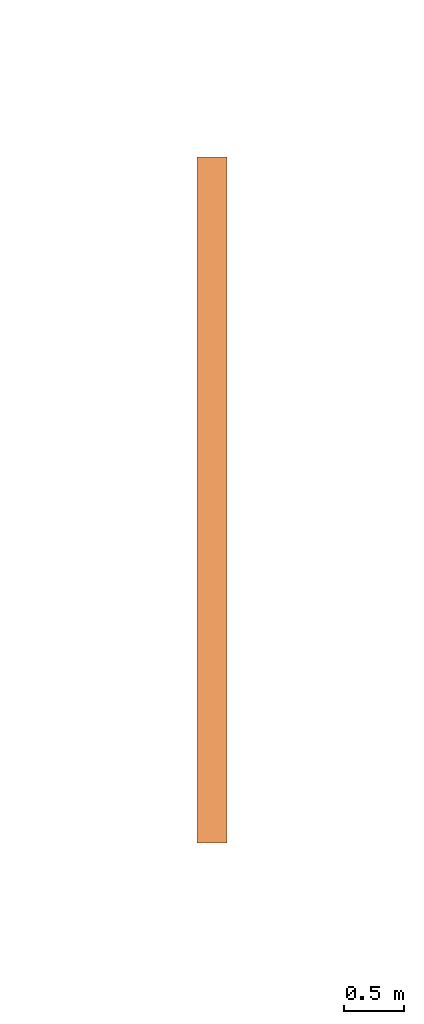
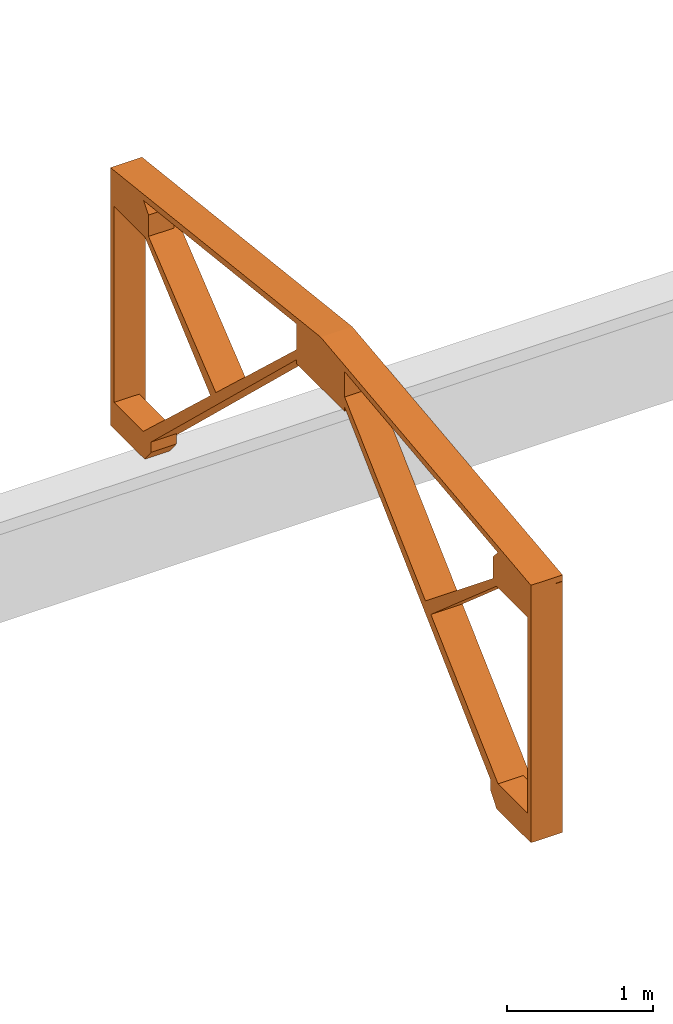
# One storey, part 5 of 6: 1 proxy.
"""IFC2X3 building model written with IfcOpenShell, lengths in millimetres."""

from ifc_helpers import new_model, entity, si_unit, converted_unit, derived_unit, direction, frame, origin, place, context, subcontext, project, spatial, faceted_brep, source, transform, mapped, material, type_object, type_shapes, element, save


model = new_model("IFC2X3")

# Units and contexts
model_context = context("Model", 3, precision=0.01, world=origin(), true_north=direction((6.12303176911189e-17, 1.0)))
body_context = subcontext(model_context, "Body", "Model", "MODEL_VIEW")
ifc_project = project(units=[si_unit("LENGTHUNIT", "METRE", prefix="MILLI"), si_unit("AREAUNIT", "SQUARE_METRE"), si_unit("VOLUMEUNIT", "CUBIC_METRE"), converted_unit("PLANEANGLEUNIT", "DEGREE", entity("IfcRatioMeasure", 0.0174532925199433), si_unit("PLANEANGLEUNIT", "RADIAN"), dimensions=[0, 0, 0, 0, 0, 0, 0]), si_unit("MASSUNIT", "GRAM", prefix="KILO"), derived_unit("MASSDENSITYUNIT", [(si_unit("MASSUNIT", "GRAM", prefix="KILO"), 1), (si_unit("LENGTHUNIT", "METRE"), -3)]), si_unit("TIMEUNIT", "SECOND"), si_unit("FREQUENCYUNIT", "HERTZ"), si_unit("THERMODYNAMICTEMPERATUREUNIT", "DEGREE_CELSIUS"), derived_unit("THERMALTRANSMITTANCEUNIT", [(si_unit("MASSUNIT", "GRAM", prefix="KILO"), 1), (si_unit("THERMODYNAMICTEMPERATUREUNIT", "KELVIN"), -1), (si_unit("TIMEUNIT", "SECOND"), -3)]), derived_unit("VOLUMETRICFLOWRATEUNIT", [(si_unit("LENGTHUNIT", "METRE"), 3), (si_unit("TIMEUNIT", "SECOND"), -1)]), si_unit("ELECTRICCURRENTUNIT", "AMPERE"), si_unit("ELECTRICVOLTAGEUNIT", "VOLT"), si_unit("POWERUNIT", "WATT"), si_unit("FORCEUNIT", "NEWTON", prefix="KILO"), si_unit("ILLUMINANCEUNIT", "LUX"), si_unit("LUMINOUSFLUXUNIT", "LUMEN"), si_unit("LUMINOUSINTENSITYUNIT", "CANDELA"), derived_unit("USERDEFINED", [(si_unit("MASSUNIT", "GRAM", prefix="KILO"), -1), (si_unit("LENGTHUNIT", "METRE"), -2), (si_unit("TIMEUNIT", "SECOND"), 3), (si_unit("LUMINOUSFLUXUNIT", "LUMEN"), 1)]), derived_unit("LINEARVELOCITYUNIT", [(si_unit("LENGTHUNIT", "METRE"), 1), (si_unit("TIMEUNIT", "SECOND"), -1)]), si_unit("PRESSUREUNIT", "PASCAL"), derived_unit("USERDEFINED", [(si_unit("LENGTHUNIT", "METRE"), -2), (si_unit("MASSUNIT", "GRAM", prefix="KILO"), 1), (si_unit("TIMEUNIT", "SECOND"), -2)])], contexts=[model_context])

# Site, building, storey
site_placement = place(None, origin())
site = spatial("IfcSite", under=ifc_project, at=site_placement, Name="表面", CompositionType="ELEMENT")
building_placement = place(site_placement, origin())
building = spatial("IfcBuilding", under=site, at=building_placement, CompositionType="ELEMENT")
storey_placement = place(building_placement, frame((0.0, 0.0, 3300.0)))
storey = spatial("IfcBuildingStorey", under=building, at=storey_placement, Name="3.3000", CompositionType="ELEMENT", Elevation=3300.0)

# Proxy
ifc_material = material(Name="钢材")
building_element_proxy_type = type_object("IfcBuildingElementProxyType", Name="最上层房顶钢架", PredefinedType="NOTDEFINED", material=ifc_material)
shared_shape = source(origin(), body_context, "Body", "Brep", [
    faceted_brep([(0.0, -250.0, 2430.07713782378), (2880.0, -250.0, 2101.40054995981), (2880.0, -250.0, 2153.09870565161), (0.0, -250.0, 2481.77529351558), (-2880.0, -250.0, 2153.09870565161), (-2880.0, -250.0, 2101.40054995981), (0.0, -200.0, 2430.07713782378), (327.886284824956, -200.0, 2392.65750403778), (327.886284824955, 0.0, 2392.65750403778), (2425.65510941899, 0.0, 2153.25212230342), (2425.65510941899, -200.0, 2153.25212230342), (2880.0, -200.0, 2101.40054995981), (2880.0, 0.0, 2153.09870565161), (0.0, 0.0, 2481.77529351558), (-2880.0, 0.0, 2153.09870565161), (-2880.0, -200.0, 2101.40054995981), (-2425.65510941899, -200.0, 2153.25212230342), (-2425.65510941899, 0.0, 2153.25212230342), (-327.886284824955, 0.0, 2392.65750403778), (-327.886284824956, -200.0, 2392.65750403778), (2880.0, 0.0, 0.0), (2409.22180214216, 0.0, 0.0), (2321.60421988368, 0.0, 111.252545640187), (2321.60421988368, 0.0, 197.515282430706), (327.886284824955, 0.0, 2095.90744203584), (327.886284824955, 0.0, 2059.45748960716), (-327.886284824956, 0.0, 2059.45748960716), (-327.886284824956, 0.0, 2095.90744203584), (-2328.1514706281, 0.0, 191.281075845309), (-2328.15147062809, 0.0, 102.939164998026), (-2409.22180214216, 0.0, 0.0), (-2880.0, 0.0, 0.0), (-2830.0, 0.0, 1859.04288670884), (-2830.0, 0.0, 220.0), (-2430.0, 0.0, 220.0), (-1509.36639488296, 0.0, 1078.50472557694), (-2407.27283607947, 0.0, 1859.04288670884), (-2358.15147062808, 0.0, 2073.12862037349), (-2358.15147062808, 0.0, 1893.80838376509), (-1435.91686212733, 0.0, 1146.99752294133), (-327.886284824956, 0.0, 2180.25275217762), (2830.0, 0.0, 1859.04288670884), (2407.27283607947, 0.0, 1859.04288670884), (1509.36639488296, 0.0, 1078.50472557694), (2430.0, 0.0, 220.0), (2830.0, 0.0, 220.0), (2358.15147062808, 0.0, 2073.12862037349), (327.886284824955, 0.0, 2180.25275217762), (1435.91686212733, 0.0, 1146.99752294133), (2358.15147062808, 0.0, 1893.80838376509), (-327.886284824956, -200.0, 2180.25275217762), (327.886284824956, -200.0, 2059.45748960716), (327.886284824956, -200.0, 2095.90744203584), (-327.886284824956, -200.0, 2059.45748960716), (208.139562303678, -200.0, 2209.92870611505), (250.56596917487, -200.0, 2252.35511298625), (327.886284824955, -200.0, 2180.25275217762), (-250.56596917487, -200.0, 2252.35511298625), (-208.139562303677, -200.0, 2209.92870611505), (-327.886284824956, -200.0, 2095.90744203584), (2880.0, -200.0, 2076.55913025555), (2880.0, -250.0, 2076.55913025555), (2880.0, -250.0, 0.0), (2358.15147062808, -200.0, 2073.12862037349), (2358.15147062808, -200.0, 1893.80838376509), (2408.42093426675, -200.0, 1934.51579277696), (2448.26226948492, -200.0, 1894.67445755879), (2407.27283607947, -200.0, 1859.04288670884), (2830.0, -200.0, 1859.04288670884), (2830.0, -200.0, 2076.55913025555), (-2409.22180214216, -200.0, 0.0), (-2328.15147062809, -200.0, 102.939164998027), (-2328.15147062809, -200.0, 191.281075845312), (-2399.52603289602, -200.0, 123.319150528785), (-2464.25943882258, -200.0, 188.052556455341), (-2430.0, -200.0, 220.0), (-2830.0, -200.0, 220.0), (-2830.0, -200.0, 0.0), (-2880.0, -250.0, 0.0), (-2880.0, -250.0, 2099.04288670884), (-2880.0, -200.0, 2099.04288670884), (-2830.0, -250.0, 0.0), (-2358.15147062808, -200.0, 2073.12862037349), (-2830.0, -200.0, 2099.04288670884), (-2830.0, -200.0, 1859.04288670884), (-2407.27283607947, -200.0, 1859.04288670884), (-2448.26226948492, -200.0, 1894.67445755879), (-2408.42093426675, -200.0, 1934.51579277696), (-2358.15147062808, -200.0, 1893.80838376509), (2321.60421988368, -200.0, 111.252545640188), (2409.22180214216, -200.0, 0.0), (2830.0, -200.0, 0.0), (2830.0, -200.0, 220.0), (2430.0, -200.0, 220.0), (2464.25943882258, -200.0, 188.05255645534), (2399.52603289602, -200.0, 123.319150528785), (2321.60421988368, -200.0, 197.515282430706), (2830.0, -250.0, 0.0), (-2830.0, -250.0, 2099.04288670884), (2830.0, -250.0, 2076.55913025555), (-2464.25943882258, -250.0, 188.052556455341), (-2399.52603289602, -250.0, 123.319150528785), (-208.139562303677, -250.0, 2209.92870611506), (-250.565969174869, -250.0, 2252.35511298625), (-1435.91686212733, -250.0, 1146.99752294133), (-2408.42093426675, -250.0, 1934.51579277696), (-2448.26226948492, -250.0, 1894.67445755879), (-1509.36639488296, -250.0, 1078.50472557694), (250.56596917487, -250.0, 2252.35511298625), (208.139562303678, -250.0, 2209.92870611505), (2399.52603289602, -250.0, 123.319150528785), (2464.25943882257, -250.0, 188.052556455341), (1509.36639488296, -250.0, 1078.50472557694), (2448.26226948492, -250.0, 1894.67445755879), (2408.42093426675, -250.0, 1934.51579277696), (1435.91686212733, -250.0, 1146.99752294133)], [[[0, 1, 2, 3, 4, 5]], [[1, 0, 6, 7, 8, 9, 10, 11]], [[3, 2, 12, 13]], [[4, 3, 13, 14]], [[0, 5, 15, 16, 17, 18, 19, 6]], [[13, 12, 20, 21, 22, 23, 24, 25, 26, 27, 28, 29, 30, 31, 14], [32, 33, 34, 35, 36], [17, 37, 38, 39, 40, 18], [41, 42, 43, 44, 45], [46, 9, 8, 47, 48, 49]], [[19, 18, 40, 50]], [[51, 25, 24, 52]], [[53, 51, 52, 54, 55, 56, 7, 6, 19, 50, 57, 58, 59]], [[2, 1, 11, 60, 61, 62, 20, 12]], [[10, 63, 64, 65, 66, 67, 68, 69, 60, 11]], [[46, 63, 10, 9]], [[63, 46, 49, 64]], [[41, 68, 67, 42]], [[70, 71, 72, 73, 74, 75, 76, 77]], [[33, 76, 75, 34]], [[5, 4, 14, 31, 78, 79, 80, 15]], [[30, 70, 77, 81, 78, 31]], [[71, 70, 30, 29]], [[71, 29, 28, 72]], [[82, 16, 15, 80, 83, 84, 85, 86, 87, 88]], [[84, 32, 36, 85]], [[37, 82, 88, 38]], [[82, 37, 17, 16]], [[51, 53, 26, 25]], [[89, 90, 91, 92, 93, 94, 95, 96]], [[22, 89, 96, 23]], [[90, 89, 22, 21]], [[90, 21, 20, 62, 97, 91]], [[92, 45, 44, 93]], [[98, 79, 78, 81]], [[79, 98, 83, 80]], [[98, 81, 77, 76, 33, 32, 84, 83]], [[99, 97, 62, 61]], [[97, 99, 69, 68, 41, 45, 92, 91]], [[99, 61, 60, 69]], [[100, 101, 102, 103, 104, 105, 106, 107]], [[103, 57, 50, 40, 39, 104]], [[101, 100, 74, 73]], [[102, 101, 73, 72, 28, 27, 59, 58]], [[103, 102, 58, 57]], [[105, 104, 39, 38, 88, 87]], [[106, 105, 87, 86]], [[107, 106, 86, 85, 36, 35]], [[108, 109, 110, 111, 112, 113, 114, 115]], [[109, 108, 55, 54]], [[110, 109, 54, 52, 24, 23, 96, 95]], [[111, 110, 95, 94]], [[55, 108, 115, 48, 47, 56]], [[113, 112, 43, 42, 67, 66]], [[114, 113, 66, 65]], [[115, 114, 65, 64, 49, 48]], [[111, 94, 93, 44, 43, 112]], [[74, 100, 107, 35, 34, 75]], [[8, 7, 56, 47]], [[26, 53, 59, 27]]]),
])
type_shapes(building_element_proxy_type, [shared_shape])
proxy_placement = place(storey_placement, frame((-4228.79878140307, 8109.6944075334, 7544.2315490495), z_axis=(0.0, 0.0, 1.0), x_axis=(0.0, 1.0, 0.0)))
element("IfcBuildingElementProxy", 1, at=proxy_placement, inside=storey, type_object=building_element_proxy_type, material=ifc_material, Name="最上层房顶钢架:最上层房顶钢架", ObjectType="最上层房顶钢架", context=body_context, shape_type="MappedRepresentation", body=[
    mapped(shared_shape, transform((0.0, 0.0, 0.0), scale=1.0)),
])

save(model, "model.ifc")
